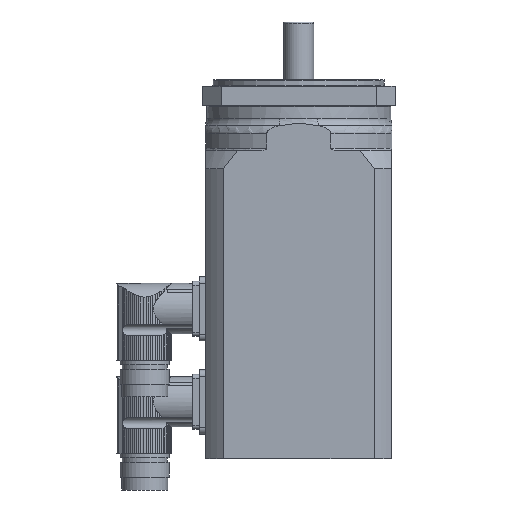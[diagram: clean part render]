
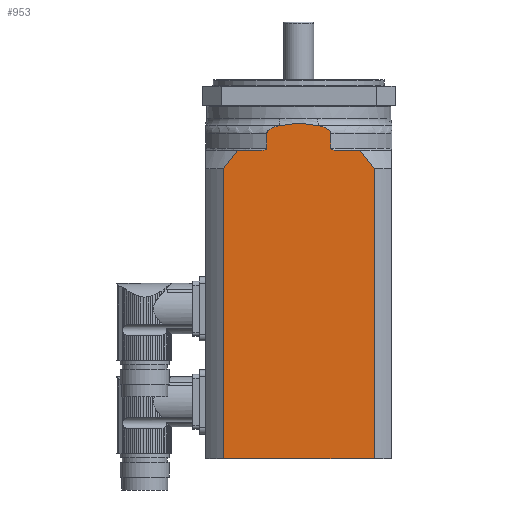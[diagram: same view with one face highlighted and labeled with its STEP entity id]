
A CAD part, front view. The second image highlights one B-rep face of the part: STEP entity #953.
In plain terms, the highlighted planar face has unit normal (0, -1, 0).
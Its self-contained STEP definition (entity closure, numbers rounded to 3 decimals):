
#156=PLANE('',#4769);
#441=LINE('',#6557,#685);
#468=LINE('',#6688,#712);
#470=LINE('',#6697,#714);
#471=LINE('',#6701,#715);
#478=LINE('',#6733,#722);
#485=LINE('',#6859,#729);
#487=LINE('',#6910,#731);
#685=VECTOR('',#5249,1.);
#712=VECTOR('',#5336,1.);
#714=VECTOR('',#5344,1.);
#715=VECTOR('',#5349,1.);
#722=VECTOR('',#5376,1.);
#729=VECTOR('',#5403,1.);
#731=VECTOR('',#5411,1.);
#953=ADVANCED_FACE('',(#1232),#156,.T.);
#1232=FACE_OUTER_BOUND('',#1486,.T.);
#1486=EDGE_LOOP('',(#2172,#2173,#2174,#2175,#2176,#2177,#2178,#2179,#2180,
#2181,#2182,#2183,#2184,#2185,#2186,#2187));
#2172=ORIENTED_EDGE('',*,*,#3905,.F.);
#2173=ORIENTED_EDGE('',*,*,#3955,.T.);
#2174=ORIENTED_EDGE('',*,*,#3844,.T.);
#2175=ORIENTED_EDGE('',*,*,#3956,.T.);
#2176=ORIENTED_EDGE('',*,*,#3957,.T.);
#2177=ORIENTED_EDGE('',*,*,#3958,.T.);
#2178=ORIENTED_EDGE('',*,*,#3856,.F.);
#2179=ORIENTED_EDGE('',*,*,#3959,.T.);
#2180=ORIENTED_EDGE('',*,*,#3951,.F.);
#2181=ORIENTED_EDGE('',*,*,#3960,.T.);
#2182=ORIENTED_EDGE('',*,*,#3911,.T.);
#2183=ORIENTED_EDGE('',*,*,#3961,.T.);
#2184=ORIENTED_EDGE('',*,*,#3909,.T.);
#2185=ORIENTED_EDGE('',*,*,#3962,.T.);
#2186=ORIENTED_EDGE('',*,*,#3925,.F.);
#2187=ORIENTED_EDGE('',*,*,#3963,.T.);
#3379=VERTEX_POINT('',#6528);
#3380=VERTEX_POINT('',#6529);
#3391=VERTEX_POINT('',#6558);
#3392=VERTEX_POINT('',#6559);
#3432=VERTEX_POINT('',#6687);
#3433=VERTEX_POINT('',#6689);
#3436=VERTEX_POINT('',#6696);
#3437=VERTEX_POINT('',#6698);
#3438=VERTEX_POINT('',#6702);
#3439=VERTEX_POINT('',#6703);
#3452=VERTEX_POINT('',#6732);
#3453=VERTEX_POINT('',#6734);
#3462=VERTEX_POINT('',#6860);
#3463=VERTEX_POINT('',#6861);
#3466=VERTEX_POINT('',#6882);
#3467=VERTEX_POINT('',#6887);
#3844=EDGE_CURVE('',#3379,#3380,#4519,.T.);
#3856=EDGE_CURVE('',#3391,#3392,#441,.T.);
#3905=EDGE_CURVE('',#3432,#3433,#468,.T.);
#3909=EDGE_CURVE('',#3437,#3436,#470,.T.);
#3911=EDGE_CURVE('',#3438,#3439,#471,.T.);
#3925=EDGE_CURVE('',#3452,#3453,#478,.T.);
#3951=EDGE_CURVE('',#3462,#3463,#485,.T.);
#3955=EDGE_CURVE('',#3432,#3379,#4539,.T.);
#3956=EDGE_CURVE('',#3380,#3466,#4540,.T.);
#3957=EDGE_CURVE('',#3466,#3467,#4541,.T.);
#3958=EDGE_CURVE('',#3467,#3392,#4542,.T.);
#3959=EDGE_CURVE('',#3391,#3463,#4543,.T.);
#3960=EDGE_CURVE('',#3462,#3438,#4544,.T.);
#3961=EDGE_CURVE('',#3439,#3437,#487,.T.);
#3962=EDGE_CURVE('',#3436,#3453,#4545,.T.);
#3963=EDGE_CURVE('',#3452,#3433,#4546,.T.);
#4519=B_SPLINE_CURVE_WITH_KNOTS('',3,(#6524,#6525,#6526,#6527),.UNSPECIFIED.,
.F.,.F.,(4,4),(0.,1.),.UNSPECIFIED.);
#4539=B_SPLINE_CURVE_WITH_KNOTS('',3,(#6868,#6869,#6870,#6871,#6872,#6873,
#6874,#6875),.UNSPECIFIED.,.F.,.F.,(4,2,2,4),(0.,0.25,0.5,1.),.UNSPECIFIED.);
#4540=B_SPLINE_CURVE_WITH_KNOTS('',3,(#6876,#6877,#6878,#6879,#6880,#6881),
.UNSPECIFIED.,.F.,.F.,(4,2,4),(0.,0.5,1.),.UNSPECIFIED.);
#4541=B_SPLINE_CURVE_WITH_KNOTS('',3,(#6883,#6884,#6885,#6886),.UNSPECIFIED.,
.F.,.F.,(4,4),(0.,1.),.UNSPECIFIED.);
#4542=B_SPLINE_CURVE_WITH_KNOTS('',3,(#6888,#6889,#6890,#6891,#6892,#6893,
#6894,#6895),.UNSPECIFIED.,.F.,.F.,(4,2,2,4),(0.,0.5,0.75,1.),.UNSPECIFIED.);
#4543=B_SPLINE_CURVE_WITH_KNOTS('',3,(#6896,#6897,#6898,#6899,#6900,#6901,
#6902,#6903,#6904,#6905),.UNSPECIFIED.,.F.,.F.,(4,2,2,2,4),(0.,0.125,0.25,
0.5,1.),.UNSPECIFIED.);
#4544=B_SPLINE_CURVE_WITH_KNOTS('',3,(#6906,#6907,#6908,#6909),.UNSPECIFIED.,
.F.,.F.,(4,4),(0.,1.),.UNSPECIFIED.);
#4545=B_SPLINE_CURVE_WITH_KNOTS('',3,(#6911,#6912,#6913,#6914),.UNSPECIFIED.,
.F.,.F.,(4,4),(0.,1.),.UNSPECIFIED.);
#4546=B_SPLINE_CURVE_WITH_KNOTS('',3,(#6915,#6916,#6917,#6918,#6919,#6920,
#6921,#6922,#6923,#6924),.UNSPECIFIED.,.F.,.F.,(4,2,2,2,4),(0.,0.5,0.75,
0.875,1.),.UNSPECIFIED.);
#4769=AXIS2_PLACEMENT_3D('',#6925,#5412,#5413);
#5249=DIRECTION('',(0.,0.,1.));
#5336=DIRECTION('',(0.,0.,-1.));
#5344=DIRECTION('',(0.,0.,1.));
#5349=DIRECTION('',(0.,0.,-1.));
#5376=DIRECTION('',(1.,0.,0.));
#5403=DIRECTION('',(1.,0.,0.));
#5411=DIRECTION('',(1.,0.,0.));
#5412=DIRECTION('',(0.,-1.,0.));
#5413=DIRECTION('',(1.,0.,0.));
#6524=CARTESIAN_POINT('',(9.548,-43.5,11.464));
#6525=CARTESIAN_POINT('',(9.436,-43.5,11.489));
#6526=CARTESIAN_POINT('',(9.323,-43.5,11.512));
#6527=CARTESIAN_POINT('',(9.211,-43.5,11.536));
#6528=CARTESIAN_POINT('',(9.548,-43.5,11.464));
#6529=CARTESIAN_POINT('',(9.211,-43.5,11.536));
#6557=CARTESIAN_POINT('',(-14.958,-43.5,0.));
#6558=CARTESIAN_POINT('',(-14.958,-43.5,1.));
#6559=CARTESIAN_POINT('',(-14.958,-43.5,7.929));
#6687=CARTESIAN_POINT('',(14.958,-43.5,7.929));
#6688=CARTESIAN_POINT('',(14.958,-43.5,0.));
#6689=CARTESIAN_POINT('',(14.958,-43.5,1.));
#6696=CARTESIAN_POINT('',(35.267,-43.5,-8.5));
#6697=CARTESIAN_POINT('',(35.267,-43.5,0.));
#6698=CARTESIAN_POINT('',(35.267,-43.5,-144.));
#6701=CARTESIAN_POINT('',(-35.267,-43.5,0.));
#6702=CARTESIAN_POINT('',(-35.267,-43.5,-8.5));
#6703=CARTESIAN_POINT('',(-35.267,-43.5,-144.));
#6732=CARTESIAN_POINT('',(17.797,-43.5,0.));
#6733=CARTESIAN_POINT('',(-43.5,-43.5,0.));
#6734=CARTESIAN_POINT('',(28.558,-43.5,0.));
#6859=CARTESIAN_POINT('',(-43.5,-43.5,0.));
#6860=CARTESIAN_POINT('',(-28.558,-43.5,0.));
#6861=CARTESIAN_POINT('',(-17.797,-43.5,0.));
#6868=CARTESIAN_POINT('',(14.958,-43.5,7.929));
#6869=CARTESIAN_POINT('',(14.958,-43.5,8.512));
#6870=CARTESIAN_POINT('',(14.631,-43.5,9.041));
#6871=CARTESIAN_POINT('',(13.812,-43.5,9.842));
#6872=CARTESIAN_POINT('',(13.315,-43.5,10.149));
#6873=CARTESIAN_POINT('',(11.782,-43.5,10.909));
#6874=CARTESIAN_POINT('',(10.67,-43.5,11.224));
#6875=CARTESIAN_POINT('',(9.548,-43.5,11.464));
#6876=CARTESIAN_POINT('',(9.211,-43.5,11.536));
#6877=CARTESIAN_POINT('',(6.182,-43.5,12.163));
#6878=CARTESIAN_POINT('',(3.071,-43.5,12.502));
#6879=CARTESIAN_POINT('',(-3.141,-43.5,12.497));
#6880=CARTESIAN_POINT('',(-6.197,-43.5,12.16));
#6881=CARTESIAN_POINT('',(-9.211,-43.5,11.536));
#6882=CARTESIAN_POINT('',(-9.211,-43.5,11.536));
#6883=CARTESIAN_POINT('',(-9.211,-43.5,11.536));
#6884=CARTESIAN_POINT('',(-9.323,-43.5,11.512));
#6885=CARTESIAN_POINT('',(-9.436,-43.5,11.489));
#6886=CARTESIAN_POINT('',(-9.548,-43.5,11.464));
#6887=CARTESIAN_POINT('',(-9.548,-43.5,11.464));
#6888=CARTESIAN_POINT('',(-9.548,-43.5,11.464));
#6889=CARTESIAN_POINT('',(-10.67,-43.5,11.224));
#6890=CARTESIAN_POINT('',(-11.777,-43.5,10.912));
#6891=CARTESIAN_POINT('',(-13.321,-43.5,10.146));
#6892=CARTESIAN_POINT('',(-13.816,-43.5,9.839));
#6893=CARTESIAN_POINT('',(-14.632,-43.5,9.038));
#6894=CARTESIAN_POINT('',(-14.958,-43.5,8.511));
#6895=CARTESIAN_POINT('',(-14.958,-43.5,7.929));
#6896=CARTESIAN_POINT('',(-14.958,-43.5,1.));
#6897=CARTESIAN_POINT('',(-14.958,-43.5,0.864));
#6898=CARTESIAN_POINT('',(-15.045,-43.5,0.746));
#6899=CARTESIAN_POINT('',(-15.243,-43.5,0.567));
#6900=CARTESIAN_POINT('',(-15.36,-43.5,0.498));
#6901=CARTESIAN_POINT('',(-15.716,-43.5,0.322));
#6902=CARTESIAN_POINT('',(-15.971,-43.5,0.242));
#6903=CARTESIAN_POINT('',(-16.743,-43.5,0.054));
#6904=CARTESIAN_POINT('',(-17.266,-43.5,0.));
#6905=CARTESIAN_POINT('',(-17.797,-43.5,0.));
#6906=CARTESIAN_POINT('',(-28.558,-43.5,0.));
#6907=CARTESIAN_POINT('',(-30.896,-43.5,-2.753));
#6908=CARTESIAN_POINT('',(-33.118,-43.5,-5.598));
#6909=CARTESIAN_POINT('',(-35.267,-43.5,-8.5));
#6910=CARTESIAN_POINT('',(-43.5,-43.5,-144.));
#6911=CARTESIAN_POINT('',(35.267,-43.5,-8.5));
#6912=CARTESIAN_POINT('',(33.118,-43.5,-5.598));
#6913=CARTESIAN_POINT('',(30.896,-43.5,-2.753));
#6914=CARTESIAN_POINT('',(28.558,-43.5,0.));
#6915=CARTESIAN_POINT('',(17.797,-43.5,0.));
#6916=CARTESIAN_POINT('',(17.266,-43.5,0.));
#6917=CARTESIAN_POINT('',(16.743,-43.5,0.054));
#6918=CARTESIAN_POINT('',(15.975,-43.5,0.241));
#6919=CARTESIAN_POINT('',(15.718,-43.5,0.321));
#6920=CARTESIAN_POINT('',(15.359,-43.5,0.499));
#6921=CARTESIAN_POINT('',(15.244,-43.5,0.567));
#6922=CARTESIAN_POINT('',(15.044,-43.5,0.746));
#6923=CARTESIAN_POINT('',(14.958,-43.5,0.864));
#6924=CARTESIAN_POINT('',(14.958,-43.5,1.));
#6925=CARTESIAN_POINT('',(-43.5,-43.5,0.));
